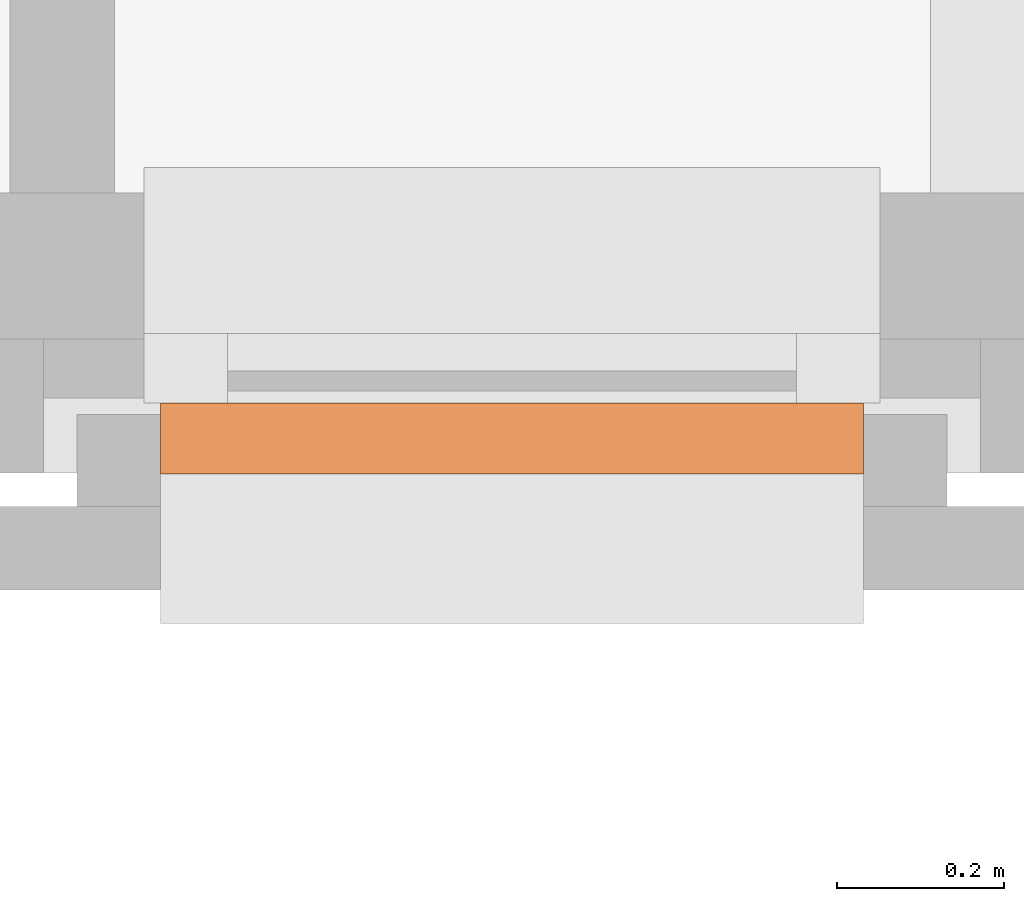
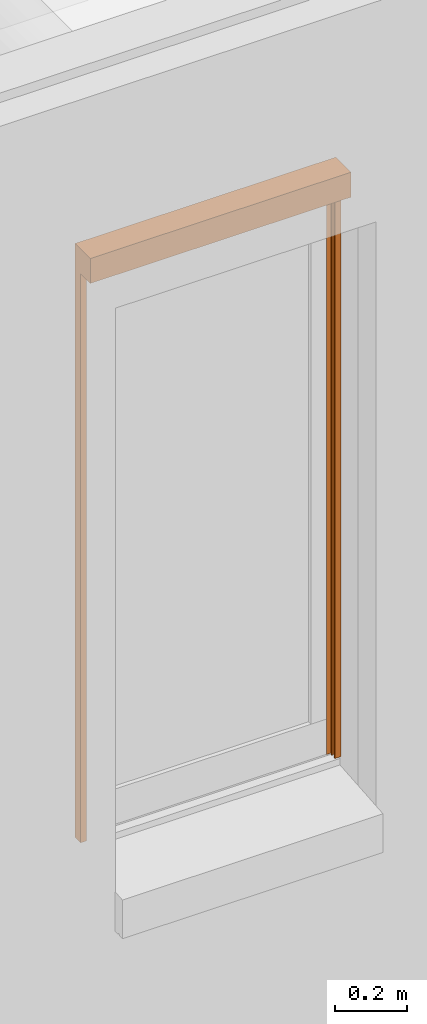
# One storey, part 114 of 128: 1 proxy.
"""IFC2X3 building model written with IfcOpenShell, lengths in millimetres."""

from ifc_helpers import new_model, entity, si_unit, converted_unit, derived_unit, direction, frame, frame_2d, origin, place, context, subcontext, project, spatial, polyline, circle_curve, parameter, trimmed, segment, composite_curve, rectangle, outline, extrude, source, transform, mapped, material, material_list, type_object, type_shapes, element, save


model = new_model("IFC2X3")

# Units and contexts
model_context = context("Model", 3, precision=0.01, world=origin(), true_north=direction((6.123031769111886e-17, 1.0)))
body_context = subcontext(model_context, "Body", "Model", "MODEL_VIEW")
ifc_project = project(units=[si_unit("LENGTHUNIT", "METRE", prefix="MILLI"), si_unit("AREAUNIT", "SQUARE_METRE"), si_unit("VOLUMEUNIT", "CUBIC_METRE"), converted_unit("PLANEANGLEUNIT", "DEGREE", entity("IfcRatioMeasure", 0.017453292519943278), si_unit("PLANEANGLEUNIT", "RADIAN"), dimensions=[0, 0, 0, 0, 0, 0, 0]), si_unit("MASSUNIT", "GRAM", prefix="KILO"), derived_unit("MASSDENSITYUNIT", [(si_unit("MASSUNIT", "GRAM", prefix="KILO"), 1), (si_unit("LENGTHUNIT", "METRE"), -3)]), derived_unit("IONCONCENTRATIONUNIT", [(si_unit("MASSUNIT", "GRAM", prefix="KILO"), 1), (si_unit("LENGTHUNIT", "METRE"), -3)]), derived_unit("MOMENTOFINERTIAUNIT", [(si_unit("LENGTHUNIT", "METRE"), 4)]), si_unit("TIMEUNIT", "SECOND"), si_unit("FREQUENCYUNIT", "HERTZ"), si_unit("THERMODYNAMICTEMPERATUREUNIT", "DEGREE_CELSIUS"), derived_unit("THERMALTRANSMITTANCEUNIT", [(si_unit("MASSUNIT", "GRAM", prefix="KILO"), 1), (si_unit("THERMODYNAMICTEMPERATUREUNIT", "KELVIN"), -1), (si_unit("TIMEUNIT", "SECOND"), -3)]), derived_unit("THERMALCONDUCTANCEUNIT", [(si_unit("MASSUNIT", "GRAM", prefix="KILO"), 1), (si_unit("THERMODYNAMICTEMPERATUREUNIT", "KELVIN"), -1), (si_unit("TIMEUNIT", "SECOND"), -3), (si_unit("LENGTHUNIT", "METRE"), 1)]), derived_unit("VOLUMETRICFLOWRATEUNIT", [(si_unit("LENGTHUNIT", "METRE"), 3), (si_unit("TIMEUNIT", "SECOND"), -1)]), derived_unit("MASSFLOWRATEUNIT", [(si_unit("MASSUNIT", "GRAM", prefix="KILO"), 1), (si_unit("TIMEUNIT", "SECOND"), -1)]), derived_unit("ROTATIONALFREQUENCYUNIT", [(si_unit("TIMEUNIT", "SECOND"), -1)]), si_unit("ELECTRICCURRENTUNIT", "AMPERE"), si_unit("ELECTRICVOLTAGEUNIT", "VOLT"), si_unit("POWERUNIT", "WATT"), si_unit("FORCEUNIT", "NEWTON", prefix="KILO"), si_unit("ILLUMINANCEUNIT", "LUX"), si_unit("LUMINOUSFLUXUNIT", "LUMEN"), si_unit("LUMINOUSINTENSITYUNIT", "CANDELA"), derived_unit("USERDEFINED", [(si_unit("MASSUNIT", "GRAM", prefix="KILO"), -1), (si_unit("LENGTHUNIT", "METRE"), -2), (si_unit("TIMEUNIT", "SECOND"), 3), (si_unit("LUMINOUSFLUXUNIT", "LUMEN"), 1)]), derived_unit("USERDEFINED", [(si_unit("MASSUNIT", "GRAM", prefix="KILO"), 1), (si_unit("TIMEUNIT", "SECOND"), -3), (si_unit("LENGTHUNIT", "METRE"), 3), (si_unit("ELECTRICCURRENTUNIT", "AMPERE"), -2)]), derived_unit("SOUNDPOWERUNIT", [(si_unit("MASSUNIT", "GRAM", prefix="KILO"), 1), (si_unit("TIMEUNIT", "SECOND"), -3), (si_unit("LENGTHUNIT", "METRE"), 2)]), derived_unit("SOUNDPRESSUREUNIT", [(si_unit("MASSUNIT", "GRAM", prefix="KILO"), 1), (si_unit("LENGTHUNIT", "METRE"), -1), (si_unit("TIMEUNIT", "SECOND"), -2)]), derived_unit("LINEARVELOCITYUNIT", [(si_unit("LENGTHUNIT", "METRE"), 1), (si_unit("TIMEUNIT", "SECOND"), -1)]), si_unit("PRESSUREUNIT", "PASCAL"), derived_unit("USERDEFINED", [(si_unit("MASSUNIT", "GRAM", prefix="KILO"), 1), (si_unit("LENGTHUNIT", "METRE"), -2), (si_unit("TIMEUNIT", "SECOND"), -2)]), derived_unit("LINEARFORCEUNIT", [(si_unit("MASSUNIT", "GRAM", prefix="KILO"), 1), (si_unit("TIMEUNIT", "SECOND"), -2)]), derived_unit("PLANARFORCEUNIT", [(si_unit("MASSUNIT", "GRAM", prefix="KILO"), 1), (si_unit("LENGTHUNIT", "METRE"), -1), (si_unit("TIMEUNIT", "SECOND"), -2)]), derived_unit("SPECIFICHEATCAPACITYUNIT", [(si_unit("THERMODYNAMICTEMPERATUREUNIT", "KELVIN"), -1), (si_unit("LENGTHUNIT", "METRE"), 2), (si_unit("TIMEUNIT", "SECOND"), -2)]), derived_unit("HEATINGVALUEUNIT", [(si_unit("LENGTHUNIT", "METRE"), 2), (si_unit("TIMEUNIT", "SECOND"), -2)]), derived_unit("VAPORPERMEABILITYUNIT", [(si_unit("LENGTHUNIT", "METRE"), -1), (si_unit("TIMEUNIT", "SECOND"), 1)]), derived_unit("DYNAMICVISCOSITYUNIT", [(si_unit("MASSUNIT", "GRAM", prefix="KILO"), 1), (si_unit("TIMEUNIT", "SECOND"), -1), (si_unit("LENGTHUNIT", "METRE"), -1)]), derived_unit("THERMALEXPANSIONCOEFFICIENTUNIT", [(si_unit("THERMODYNAMICTEMPERATUREUNIT", "KELVIN"), -1)]), derived_unit("MODULUSOFELASTICITYUNIT", [(si_unit("MASSUNIT", "GRAM", prefix="KILO"), 1), (si_unit("LENGTHUNIT", "METRE"), -1), (si_unit("TIMEUNIT", "SECOND"), -2)]), derived_unit("ISOTHERMALMOISTURECAPACITYUNIT", [(si_unit("LENGTHUNIT", "METRE"), 3), (si_unit("MASSUNIT", "GRAM", prefix="KILO"), -1)]), derived_unit("MOISTUREDIFFUSIVITYUNIT", [(si_unit("TIMEUNIT", "SECOND"), -1), (si_unit("LENGTHUNIT", "METRE"), 2)])], contexts=[model_context])

# Site, building, storey
site_placement = place(None, frame((0.0, 300.0, 0.0)))
site = spatial("IfcSite", under=ifc_project, at=site_placement, Name="<Kadastrale nummers>", CompositionType="ELEMENT")
building_placement = place(site_placement, origin())
building = spatial("IfcBuilding", under=site, at=building_placement, CompositionType="ELEMENT")
storey_placement = place(building_placement, frame((0.0, 0.0, 3560.0000331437)))
storey = spatial("IfcBuildingStorey", under=building, at=storey_placement, Name="01 eerste verdieping", CompositionType="ELEMENT", Elevation=3560.0000331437)

# Proxy
ifc_material_1 = material(Name="STAAL_RAL 7006")
ifc_material_2 = material(Name="<Unnamed>")
ifc_material_list = material_list([ifc_material_1, ifc_material_2])
building_element_proxy_type = type_object("IfcBuildingElementProxyType", Name="31_DAT_Screen_zonwering_bak85:31_DAT_Screen_zonwering_bak85", PredefinedType="NOTDEFINED", material=ifc_material_list)
shared_shape = source(origin(), body_context, "Body", "SweptSolid", [
    extrude(outline(polyline([(-53.573897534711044, -60.698648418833), (27.826102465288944, -60.698648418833), (27.826102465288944, 17.501351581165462), (24.626102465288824, 17.501351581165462), (24.626102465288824, 22.501351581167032), (1.1216926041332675, 22.501351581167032), (1.1216926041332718, 20.695945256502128), (-53.573897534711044, 20.695945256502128), (-53.573897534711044, -60.698648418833)])), frame((838.0, 29.62610246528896, 2772.501351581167), z_axis=(1.0, 0.0, 0.0), x_axis=(0.0, -1.0, 0.0)), (0.0, 0.0, 1.0), 1.9999999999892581),
    extrude(outline(polyline([(-51.082598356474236, -55.832432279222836), (33.91740164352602, -55.832432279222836), (33.91740164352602, 29.167567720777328), (28.91740164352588, 29.167567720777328), (28.91740164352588, 24.16756772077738), (32.117401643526, 24.16756772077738), (32.117401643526, -54.032432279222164), (-49.28259835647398, -54.032432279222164), (-49.28259835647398, 27.362161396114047), (5.41299178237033, 27.362161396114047), (5.41299178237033, 29.167567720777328), (-51.082598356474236, 29.167567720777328), (-51.082598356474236, -55.832432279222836)])), frame((0.0, 33.91740164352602, 2779.1675677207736), z_axis=(1.0, 0.0, 0.0), x_axis=(0.0, -1.0, 0.0)), (0.0, 0.0, 1.0), 839.9999999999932),
    extrude(outline(polyline([(-53.573897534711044, -60.698648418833), (27.826102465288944, -60.698648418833), (27.826102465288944, 17.501351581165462), (24.626102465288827, 17.501351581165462), (24.626102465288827, 22.501351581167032), (1.1216926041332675, 22.501351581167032), (1.1216926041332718, 20.695945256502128), (-53.573897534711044, 20.695945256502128), (-53.573897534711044, -60.698648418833)])), frame((0.0, 29.62610246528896, 2772.501351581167), z_axis=(1.0, 0.0, 0.0), x_axis=(0.0, -1.0, 0.0)), (0.0, 0.0, 1.0), 1.999999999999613),
    extrude(rectangle(XDim=1.163311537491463, YDim=800.0000000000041, at=frame_2d((2.1094237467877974e-15, 0.0), x_axis=(1.0, 0.0))), frame((420.0, 20.03729323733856, 2750.0), z_axis=(0.0, 0.0, 1.0), x_axis=(0.0, -1.0, 0.0)), (0.0, 0.0, 1.0), 47.3934410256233),
    extrude(outline(composite_curve([segment(trimmed(circle_curve(frame_2d((21.523758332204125, 7.502327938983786), x_axis=(1.0, 0.0)), 1.5000000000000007), [parameter(6.615553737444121e-13)], [parameter(90.00000000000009)], True, "PARAMETER"), True, "CONTINUOUS"), segment(polyline([(21.523758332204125, 9.00232793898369), (-8.97624166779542, 9.00232793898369)]), True, "CONTINUOUS"), segment(trimmed(circle_curve(frame_2d((-8.97624166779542, 6.00232793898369), x_axis=(1.0, 0.0)), 3.0), [parameter(90.00000000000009)], [parameter(172.8445490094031)], True, "PARAMETER"), True, "CONTINUOUS"), segment(polyline([(-11.952877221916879, 6.376013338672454), (-12.470504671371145, 2.2367466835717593)]), True, "CONTINUOUS"), segment(trimmed(circle_curve(frame_2d((-11.733933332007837, 2.1446362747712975), x_axis=(1.0, 0.0)), 0.7423083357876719), [parameter(172.87199730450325)], [parameter(320.7928857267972)], True, "PARAMETER"), True, "CONTINUOUS"), segment(trimmed(circle_curve(frame_2d((-8.97624166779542, 0.002327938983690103), x_axis=(1.0, 0.0)), 2.75), [parameter(218.21030001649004)], [parameter(142.52672013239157)], True, "PARAMETER"), False, "CONTINUOUS"), segment(trimmed(circle_curve(frame_2d((-11.733933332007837, -2.1399803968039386), x_axis=(1.0, 0.0)), 0.7423083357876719), [parameter(36.476465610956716)], [parameter(187.12800269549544)], True, "PARAMETER"), True, "CONTINUOUS"), segment(polyline([(-12.470504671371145, -2.2320908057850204), (-11.95287722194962, -6.3713574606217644)]), True, "CONTINUOUS"), segment(trimmed(circle_curve(frame_2d((-8.97624166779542, -5.9976720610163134), x_axis=(1.0, 0.0)), 3.0), [parameter(187.15545099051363)], [parameter(269.9999999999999)], True, "PARAMETER"), True, "CONTINUOUS"), segment(polyline([(-8.97624166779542, -8.997672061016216), (21.523758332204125, -8.997672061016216)]), True, "CONTINUOUS"), segment(trimmed(circle_curve(frame_2d((21.523758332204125, -7.497672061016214), x_axis=(1.0, 0.0)), 1.4999999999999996), [parameter(269.9999999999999)], [parameter(7.124442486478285e-13)], True, "PARAMETER"), True, "CONTINUOUS"), segment(polyline([(23.02375833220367, -7.4976720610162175), (23.02375833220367, 7.50232793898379)]), True, "CONTINUOUS")], self_intersect=False)), frame((20.0, 19.99767206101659, 2790.417199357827), z_axis=(1.0, 0.0, 0.0), x_axis=(0.0, 0.0, -1.0)), (0.0, 0.0, 1.0), 800.0000000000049),
    extrude(outline(polyline([(-16.231574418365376, -14.638298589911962), (13.768425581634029, -14.638298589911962), (13.768425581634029, 15.36170141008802), (-6.2315744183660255, 15.36170141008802), (-6.2315744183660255, 10.361701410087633), (-4.769580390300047, 10.361701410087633), (-4.769580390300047, 13.866111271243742), (12.23272922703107, 13.866111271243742), (12.23272922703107, -4.579546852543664), (-4.769580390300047, -4.579546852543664), (-4.769580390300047, -1.1166850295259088), (-6.231574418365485, -1.1166850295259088), (-6.231574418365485, -6.116685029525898), (12.232729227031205, -6.116685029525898), (12.232729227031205, -13.138298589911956), (-16.231574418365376, -13.138298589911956), (-16.231574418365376, -14.638298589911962)])), frame((826.2315744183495, 14.638298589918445, 810.0)), (0.0, 0.0, 1.0), 1940.0000000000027),
    extrude(outline(polyline([(-14.638298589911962, -16.231574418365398), (-13.13829858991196, -16.231574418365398), (-13.13829858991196, 12.232729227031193), (-6.116685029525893, 12.232729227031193), (-6.116685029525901, -6.231574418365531), (-1.116685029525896, -6.231574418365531), (-1.116685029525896, -4.769580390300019), (-4.579546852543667, -4.769580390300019), (-4.579546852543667, 12.2327292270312), (13.866111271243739, 12.2327292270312), (13.866111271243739, -4.769580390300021), (10.361701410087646, -4.769580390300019), (10.361701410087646, -6.231574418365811), (15.361701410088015, -6.231574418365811), (15.361701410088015, 13.76842558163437), (-14.638298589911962, 13.76842558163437), (-14.638298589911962, -16.231574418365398)])), frame((13.768425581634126, 14.638298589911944, 810.0), z_axis=(0.0, 0.0, 1.0), x_axis=(0.0, 1.0, 0.0)), (0.0, 0.0, 1.0), 1940.0000000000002),
])
type_shapes(building_element_proxy_type, [shared_shape])
proxy_placement = place(storey_placement, frame((25500.0, 37949.0, 90.00000187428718), z_axis=(0.0, 0.0, 1.0), x_axis=(-1.0, 0.0, 0.0)))
element("IfcBuildingElementProxy", 1, at=proxy_placement, inside=storey, type_object=building_element_proxy_type, material=ifc_material_list, Name="31_DAT_Screen_zonwering_bak85:31_DAT_Screen_zonwering_bak85", ObjectType="31_DAT_Screen_zonwering_bak85:31_DAT_Screen_zonwering_bak85", context=body_context, shape_type="MappedRepresentation", body=[
    mapped(shared_shape, transform((0.0, 0.0, 0.0), scale=1.0)),
])

save(model, "model.ifc")
